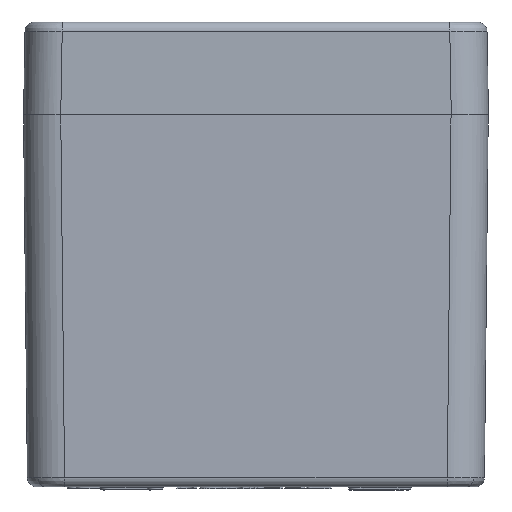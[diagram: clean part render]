
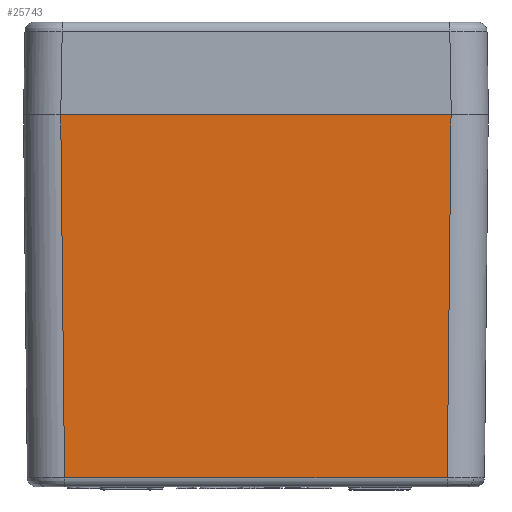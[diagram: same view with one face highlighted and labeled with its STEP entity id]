
A CAD part, left-side view. The second image highlights one B-rep face of the part: STEP entity #25743.
In plain terms, the highlighted planar face has unit normal (-1, 0, -0.011) as drawn and (1, -0.01, 0) by its records, which use the part's own axes.
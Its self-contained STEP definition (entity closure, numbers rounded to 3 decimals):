
#1635 = LINE ( 'NONE', #19122, #29054 ) ;
#2436 = VECTOR ( 'NONE', #15349, 1000. ) ;
#3988 = ORIENTED_EDGE ( 'NONE', *, *, #9754, .T. ) ;
#6099 = DIRECTION ( 'NONE',  ( 0., 0., 1. ) ) ;
#6154 = AXIS2_PLACEMENT_3D ( 'NONE', #44600, #37701, #16183 ) ;
#7367 = CARTESIAN_POINT ( 'NONE',  ( 39.982, 0.3, 31.483 ) ) ;
#7368 = CARTESIAN_POINT ( 'NONE',  ( 40.001, 2.063, -31.501 ) ) ;
#7581 = EDGE_CURVE ( 'NONE', #16099, #10135, #13099, .T. ) ;
#8148 = DIRECTION ( 'NONE',  ( -0.01, -1., -0.01 ) ) ;
#9659 = VERTEX_POINT ( 'NONE', #25017 ) ;
#9754 = EDGE_CURVE ( 'NONE', #13611, #10135, #21922, .T. ) ;
#10056 = ORIENTED_EDGE ( 'NONE', *, *, #32252, .T. ) ;
#10135 = VERTEX_POINT ( 'NONE', #14365 ) ;
#10993 = LINE ( 'NONE', #7368, #40627 ) ;
#13099 = LINE ( 'NONE', #25941, #2436 ) ;
#13611 = VERTEX_POINT ( 'NONE', #35693 ) ;
#14365 = CARTESIAN_POINT ( 'NONE',  ( 39.369, -58.216, 30.87 ) ) ;
#15266 = PLANE ( 'NONE',  #6154 ) ;
#15349 = DIRECTION ( 'NONE',  ( 0., 0., 1. ) ) ;
#16099 = VERTEX_POINT ( 'NONE', #41479 ) ;
#16183 = DIRECTION ( 'NONE',  ( 0.01, 1., 0. ) ) ;
#19083 = EDGE_CURVE ( 'NONE', #9659, #16099, #10993, .T. ) ;
#19122 = CARTESIAN_POINT ( 'NONE',  ( 39.982, 0.3, -37.5 ) ) ;
#21922 = LINE ( 'NONE', #7367, #31398 ) ;
#25017 = CARTESIAN_POINT ( 'NONE',  ( 39.982, 0.3, -31.483 ) ) ;
#25459 = ORIENTED_EDGE ( 'NONE', *, *, #7581, .F. ) ;
#25743 = ADVANCED_FACE ( 'NONE', ( #34134 ), #15266, .T. ) ;
#25941 = CARTESIAN_POINT ( 'NONE',  ( 39.369, -58.216, -37.5 ) ) ;
#29054 = VECTOR ( 'NONE', #6099, 1000. ) ;
#31398 = VECTOR ( 'NONE', #8148, 1000. ) ;
#32252 = EDGE_CURVE ( 'NONE', #9659, #13611, #1635, .T. ) ;
#34134 = FACE_OUTER_BOUND ( 'NONE', #45103, .T. ) ;
#35693 = CARTESIAN_POINT ( 'NONE',  ( 39.982, 0.3, 31.483 ) ) ;
#37701 = DIRECTION ( 'NONE',  ( 1., -0.01, 0. ) ) ;
#40627 = VECTOR ( 'NONE', #43739, 1000. ) ;
#41060 = ORIENTED_EDGE ( 'NONE', *, *, #19083, .F. ) ;
#41479 = CARTESIAN_POINT ( 'NONE',  ( 39.369, -58.216, -30.87 ) ) ;
#43739 = DIRECTION ( 'NONE',  ( -0.01, -1., 0.01 ) ) ;
#44600 = CARTESIAN_POINT ( 'NONE',  ( 40., 2., -37.5 ) ) ;
#45103 = EDGE_LOOP ( 'NONE', ( #41060, #10056, #3988, #25459 ) ) ;
